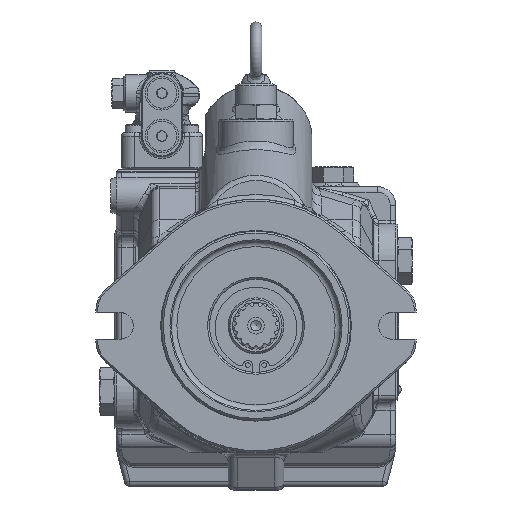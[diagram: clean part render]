
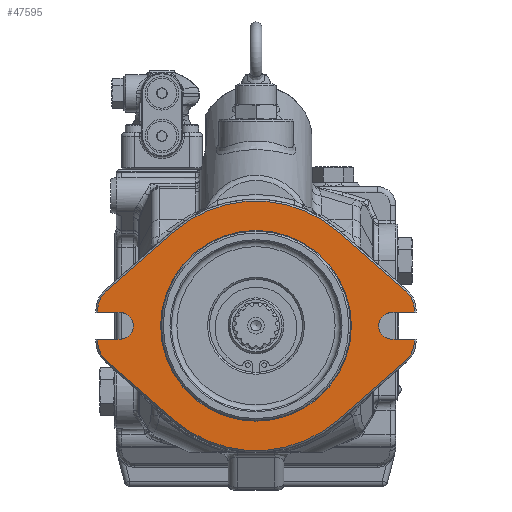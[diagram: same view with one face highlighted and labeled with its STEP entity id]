
A CAD part, top view. The second image highlights one B-rep face of the part: STEP entity #47595.
In plain terms, the highlighted planar face has unit normal (0, 0, 1).
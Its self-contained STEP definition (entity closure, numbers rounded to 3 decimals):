
#5134=FACE_BOUND('',#11399,.T.);
#6174=PLANE('',#51508);
#8478=FACE_OUTER_BOUND('',#11398,.T.);
#11398=EDGE_LOOP('',(#42156,#42157,#42158,#42159,#42160,#42161,#42162,#42163,
#42164,#42165,#42166,#42167,#42168,#42169,#42170,#42171,#42172,#42173,#42174,
#42175));
#11399=EDGE_LOOP('',(#42176));
#14804=LINE('',#90719,#18136);
#14822=LINE('',#90778,#18154);
#14835=LINE('',#90809,#18167);
#14839=LINE('',#90817,#18171);
#14843=LINE('',#90832,#18175);
#14858=LINE('',#90861,#18190);
#14859=LINE('',#90864,#18191);
#14877=LINE('',#91248,#18209);
#14878=LINE('',#91252,#18210);
#14879=LINE('',#91256,#18211);
#14880=LINE('',#91261,#18212);
#14881=LINE('',#91265,#18213);
#18136=VECTOR('',#61591,10.);
#18154=VECTOR('',#61645,10.);
#18167=VECTOR('',#61674,10.);
#18171=VECTOR('',#61680,10.);
#18175=VECTOR('',#61694,10.);
#18190=VECTOR('',#61723,10.);
#18191=VECTOR('',#61726,10.);
#18209=VECTOR('',#61824,10.);
#18210=VECTOR('',#61827,10.);
#18211=VECTOR('',#61830,10.);
#18212=VECTOR('',#61835,10.);
#18213=VECTOR('',#61838,10.);
#20052=CIRCLE('',#51430,7.15);
#20059=CIRCLE('',#51448,7.15);
#20079=CIRCLE('',#51506,51.2);
#20081=CIRCLE('',#51509,14.);
#20082=CIRCLE('',#51510,67.);
#20083=CIRCLE('',#51511,14.);
#20084=CIRCLE('',#51512,14.);
#20085=CIRCLE('',#51513,67.);
#20086=CIRCLE('',#51514,14.);
#23829=VERTEX_POINT('',#90716);
#23830=VERTEX_POINT('',#90718);
#23832=VERTEX_POINT('',#90724);
#23852=VERTEX_POINT('',#90775);
#23853=VERTEX_POINT('',#90777);
#23855=VERTEX_POINT('',#90783);
#23863=VERTEX_POINT('',#90807);
#23866=VERTEX_POINT('',#90815);
#23872=VERTEX_POINT('',#90831);
#23879=VERTEX_POINT('',#90859);
#23880=VERTEX_POINT('',#90863);
#23941=VERTEX_POINT('',#91243);
#23942=VERTEX_POINT('',#91247);
#23943=VERTEX_POINT('',#91249);
#23944=VERTEX_POINT('',#91251);
#23945=VERTEX_POINT('',#91253);
#23946=VERTEX_POINT('',#91255);
#23947=VERTEX_POINT('',#91258);
#23948=VERTEX_POINT('',#91260);
#23949=VERTEX_POINT('',#91262);
#23950=VERTEX_POINT('',#91264);
#29976=EDGE_CURVE('',#23830,#23829,#14804,.T.);
#29980=EDGE_CURVE('',#23829,#23832,#20052,.T.);
#30005=EDGE_CURVE('',#23853,#23852,#14822,.T.);
#30009=EDGE_CURVE('',#23852,#23855,#20059,.T.);
#30021=EDGE_CURVE('',#23855,#23863,#14835,.T.);
#30025=EDGE_CURVE('',#23832,#23866,#14839,.T.);
#30032=EDGE_CURVE('',#23853,#23872,#14843,.T.);
#30047=EDGE_CURVE('',#23879,#23866,#14858,.T.);
#30048=EDGE_CURVE('',#23830,#23880,#14859,.T.);
#30120=EDGE_CURVE('',#23941,#23941,#20079,.T.);
#30122=EDGE_CURVE('',#23942,#23863,#14877,.T.);
#30123=EDGE_CURVE('',#23943,#23942,#20081,.T.);
#30124=EDGE_CURVE('',#23944,#23943,#14878,.T.);
#30125=EDGE_CURVE('',#23945,#23944,#20082,.T.);
#30126=EDGE_CURVE('',#23946,#23945,#14879,.T.);
#30127=EDGE_CURVE('',#23880,#23946,#20083,.T.);
#30128=EDGE_CURVE('',#23947,#23879,#20084,.T.);
#30129=EDGE_CURVE('',#23948,#23947,#14880,.T.);
#30130=EDGE_CURVE('',#23949,#23948,#20085,.T.);
#30131=EDGE_CURVE('',#23950,#23949,#14881,.T.);
#30132=EDGE_CURVE('',#23872,#23950,#20086,.T.);
#42156=ORIENTED_EDGE('',*,*,#30021,.T.);
#42157=ORIENTED_EDGE('',*,*,#30122,.F.);
#42158=ORIENTED_EDGE('',*,*,#30123,.F.);
#42159=ORIENTED_EDGE('',*,*,#30124,.F.);
#42160=ORIENTED_EDGE('',*,*,#30125,.F.);
#42161=ORIENTED_EDGE('',*,*,#30126,.F.);
#42162=ORIENTED_EDGE('',*,*,#30127,.F.);
#42163=ORIENTED_EDGE('',*,*,#30048,.F.);
#42164=ORIENTED_EDGE('',*,*,#29976,.T.);
#42165=ORIENTED_EDGE('',*,*,#29980,.T.);
#42166=ORIENTED_EDGE('',*,*,#30025,.T.);
#42167=ORIENTED_EDGE('',*,*,#30047,.F.);
#42168=ORIENTED_EDGE('',*,*,#30128,.F.);
#42169=ORIENTED_EDGE('',*,*,#30129,.F.);
#42170=ORIENTED_EDGE('',*,*,#30130,.F.);
#42171=ORIENTED_EDGE('',*,*,#30131,.F.);
#42172=ORIENTED_EDGE('',*,*,#30132,.F.);
#42173=ORIENTED_EDGE('',*,*,#30032,.F.);
#42174=ORIENTED_EDGE('',*,*,#30005,.T.);
#42175=ORIENTED_EDGE('',*,*,#30009,.T.);
#42176=ORIENTED_EDGE('',*,*,#30120,.F.);
#47595=ADVANCED_FACE('',(#8478,#5134),#6174,.F.);
#51430=AXIS2_PLACEMENT_3D('',#90726,#61597,#61598);
#51448=AXIS2_PLACEMENT_3D('',#90785,#61651,#61652);
#51506=AXIS2_PLACEMENT_3D('',#91244,#61818,#61819);
#51508=AXIS2_PLACEMENT_3D('',#91246,#61822,#61823);
#51509=AXIS2_PLACEMENT_3D('',#91250,#61825,#61826);
#51510=AXIS2_PLACEMENT_3D('',#91254,#61828,#61829);
#51511=AXIS2_PLACEMENT_3D('',#91257,#61831,#61832);
#51512=AXIS2_PLACEMENT_3D('',#91259,#61833,#61834);
#51513=AXIS2_PLACEMENT_3D('',#91263,#61836,#61837);
#51514=AXIS2_PLACEMENT_3D('',#91266,#61839,#61840);
#61591=DIRECTION('',(1.,0.,0.));
#61597=DIRECTION('center_axis',(0.,0.,-1.));
#61598=DIRECTION('ref_axis',(0.,-1.,0.));
#61645=DIRECTION('',(-1.,0.,0.));
#61651=DIRECTION('center_axis',(0.,0.,-1.));
#61652=DIRECTION('ref_axis',(0.,1.,0.));
#61674=DIRECTION('',(1.,0.,0.));
#61680=DIRECTION('',(-1.,0.,0.));
#61694=DIRECTION('',(0.,-1.,0.));
#61723=DIRECTION('',(0.,1.,0.));
#61726=DIRECTION('',(0.,1.,0.));
#61818=DIRECTION('center_axis',(0.,0.,1.));
#61819=DIRECTION('ref_axis',(0.,-1.,0.));
#61822=DIRECTION('center_axis',(0.,0.,-1.));
#61823=DIRECTION('ref_axis',(0.,1.,0.));
#61824=DIRECTION('',(0.,-1.,0.));
#61825=DIRECTION('center_axis',(0.,0.,-1.));
#61826=DIRECTION('ref_axis',(0.911,0.413,0.));
#61827=DIRECTION('',(0.752,-0.66,0.));
#61828=DIRECTION('center_axis',(0.,0.,-1.));
#61829=DIRECTION('ref_axis',(0.,1.,0.));
#61830=DIRECTION('',(0.752,0.66,0.));
#61831=DIRECTION('center_axis',(0.,0.,-1.));
#61832=DIRECTION('ref_axis',(-0.911,0.413,0.));
#61833=DIRECTION('center_axis',(0.,0.,-1.));
#61834=DIRECTION('ref_axis',(-0.911,-0.413,0.));
#61835=DIRECTION('',(-0.752,0.66,0.));
#61836=DIRECTION('center_axis',(0.,0.,-1.));
#61837=DIRECTION('ref_axis',(0.,-1.,0.));
#61838=DIRECTION('',(-0.752,-0.66,0.));
#61839=DIRECTION('center_axis',(0.,0.,-1.));
#61840=DIRECTION('ref_axis',(0.911,-0.413,0.));
#90716=CARTESIAN_POINT('',(-109.289,-17.618,288.516));
#90718=CARTESIAN_POINT('',(-121.289,-17.618,288.516));
#90719=CARTESIAN_POINT('',(-72.789,-17.618,288.516));
#90724=CARTESIAN_POINT('',(-109.289,-31.918,288.516));
#90726=CARTESIAN_POINT('Origin',(-109.289,-24.768,288.516));
#90775=CARTESIAN_POINT('',(36.711,-31.918,288.516));
#90777=CARTESIAN_POINT('',(48.711,-31.918,288.516));
#90778=CARTESIAN_POINT('',(0.211,-31.918,288.516));
#90783=CARTESIAN_POINT('',(36.711,-17.618,288.516));
#90785=CARTESIAN_POINT('Origin',(36.711,-24.768,288.516));
#90807=CARTESIAN_POINT('',(48.711,-17.618,288.516));
#90809=CARTESIAN_POINT('',(23.41,-17.618,288.516));
#90815=CARTESIAN_POINT('',(-121.289,-31.918,288.516));
#90817=CARTESIAN_POINT('',(-88.091,-31.918,288.516));
#90831=CARTESIAN_POINT('',(48.711,-32.974,288.516));
#90832=CARTESIAN_POINT('',(48.711,32.023,288.516));
#90859=CARTESIAN_POINT('',(-121.289,-32.974,288.516));
#90861=CARTESIAN_POINT('',(-121.289,39.523,288.516));
#90863=CARTESIAN_POINT('',(-121.289,-16.561,288.516));
#90864=CARTESIAN_POINT('',(-121.289,39.523,288.516));
#91243=CARTESIAN_POINT('',(-36.289,26.432,288.516));
#91244=CARTESIAN_POINT('Origin',(-36.289,-24.768,288.516));
#91246=CARTESIAN_POINT('Origin',(-36.289,65.814,288.516));
#91247=CARTESIAN_POINT('',(48.711,-16.561,288.516));
#91248=CARTESIAN_POINT('',(48.711,32.023,288.516));
#91249=CARTESIAN_POINT('',(43.946,-6.038,288.516));
#91250=CARTESIAN_POINT('Origin',(34.711,-16.561,288.516));
#91251=CARTESIAN_POINT('',(7.905,25.591,288.516));
#91252=CARTESIAN_POINT('',(-11.823,42.903,288.516));
#91253=CARTESIAN_POINT('',(-80.482,25.591,288.516));
#91254=CARTESIAN_POINT('Origin',(-36.289,-24.768,288.516));
#91255=CARTESIAN_POINT('',(-116.523,-6.038,288.516));
#91256=CARTESIAN_POINT('',(-50.468,51.93,288.516));
#91257=CARTESIAN_POINT('Origin',(-107.289,-16.561,288.516));
#91258=CARTESIAN_POINT('',(-116.523,-43.497,288.516));
#91259=CARTESIAN_POINT('Origin',(-107.289,-32.974,288.516));
#91260=CARTESIAN_POINT('',(-80.482,-75.126,288.516));
#91261=CARTESIAN_POINT('',(-120.783,-39.759,288.516));
#91262=CARTESIAN_POINT('',(7.905,-75.126,288.516));
#91263=CARTESIAN_POINT('Origin',(-36.289,-24.768,288.516));
#91264=CARTESIAN_POINT('',(43.946,-43.497,288.516));
#91265=CARTESIAN_POINT('',(37.919,-48.786,288.516));
#91266=CARTESIAN_POINT('Origin',(34.711,-32.974,288.516));
